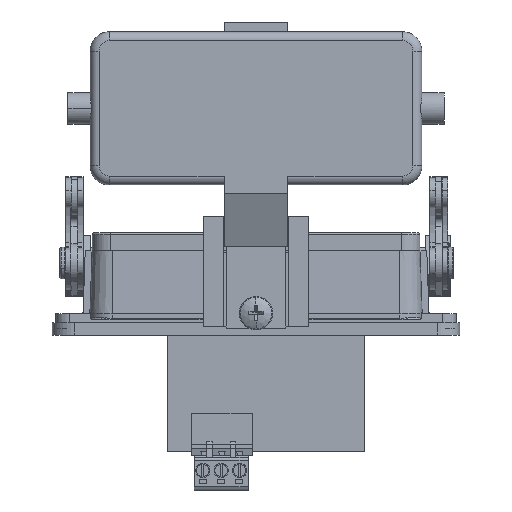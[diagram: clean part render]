
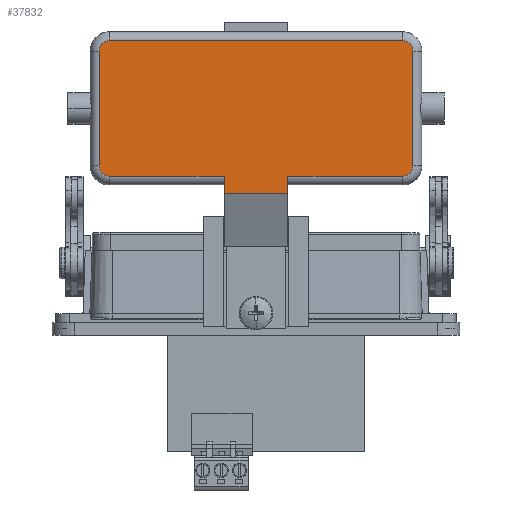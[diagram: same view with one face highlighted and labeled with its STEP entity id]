
A CAD part, front view. The second image highlights one B-rep face of the part: STEP entity #37832.
In plain terms, the highlighted planar face has unit normal (0, -1, 0).
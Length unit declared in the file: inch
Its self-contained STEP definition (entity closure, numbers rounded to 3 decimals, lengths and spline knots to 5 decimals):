
#6994 = VERTEX_POINT ( 'NONE', #22805 ) ;
#7810 = EDGE_CURVE ( 'NONE', #7850, #7822, #21248, .T. ) ;
#7822 = VERTEX_POINT ( 'NONE', #21294 ) ;
#7842 = VERTEX_POINT ( 'NONE', #21372 ) ;
#7844 = EDGE_CURVE ( 'NONE', #6994, #7842, #21370, .T. ) ;
#7850 = VERTEX_POINT ( 'NONE', #21867 ) ;
#21245 = DIRECTION ( 'NONE',  ( 1., 0., 0. ) ) ;
#21246 = VECTOR ( 'NONE', #21245, 39.37008 ) ;
#21247 = CARTESIAN_POINT ( 'NONE',  ( 0.0433, -1.17042, 1.01812 ) ) ;
#21248 = LINE ( 'NONE', #21247, #21246 ) ;
#21294 = CARTESIAN_POINT ( 'NONE',  ( 0.0433, -1.17042, 1.01812 ) ) ;
#21367 = DIRECTION ( 'NONE',  ( 1., 0., 0. ) ) ;
#21368 = VECTOR ( 'NONE', #21367, 39.37008 ) ;
#21369 = CARTESIAN_POINT ( 'NONE',  ( 2.0343, -1.17042, 1.01812 ) ) ;
#21370 = LINE ( 'NONE', #21369, #21368 ) ;
#21372 = CARTESIAN_POINT ( 'NONE',  ( 2.0343, -1.17042, 1.01812 ) ) ;
#21867 = CARTESIAN_POINT ( 'NONE',  ( -1.2377, -1.17042, 1.01812 ) ) ;
#22805 = CARTESIAN_POINT ( 'NONE',  ( 0.7533, -1.17042, 1.01812 ) ) ;
#36072 = EDGE_CURVE ( 'NONE', #36181, #7850, #37376, .T. ) ;
#36103 = VERTEX_POINT ( 'NONE', #37562 ) ;
#36140 = EDGE_CURVE ( 'NONE', #36141, #36238, #37882, .T. ) ;
#36141 = VERTEX_POINT ( 'NONE', #37872 ) ;
#36149 = VERTEX_POINT ( 'NONE', #38072 ) ;
#36151 = EDGE_CURVE ( 'NONE', #36238, #36149, #38067, .T. ) ;
#36181 = VERTEX_POINT ( 'NONE', #38317 ) ;
#36183 = EDGE_CURVE ( 'NONE', #36251, #36181, #38312, .T. ) ;
#36238 = VERTEX_POINT ( 'NONE', #38734 ) ;
#36251 = VERTEX_POINT ( 'NONE', #38898 ) ;
#36253 = EDGE_CURVE ( 'NONE', #36149, #36251, #38894, .T. ) ;
#36290 = EDGE_CURVE ( 'NONE', #6994, #36103, #39053, .T. ) ;
#37369 = DIRECTION ( 'NONE',  ( -1., 0., 0. ) ) ;
#37370 = DIRECTION ( 'NONE',  ( 0., -1., 0. ) ) ;
#37372 = CARTESIAN_POINT ( 'NONE',  ( -1.2377, -1.17042, 1.13274 ) ) ;
#37374 = AXIS2_PLACEMENT_3D ( 'NONE', #37372, #37370, #37369 ) ;
#37376 = CIRCLE ( 'NONE', #37374, 0.11462 ) ;
#37520 = ORIENTED_EDGE ( 'NONE', *, *, #7810, .T. ) ;
#37558 = EDGE_CURVE ( 'NONE', #37928, #36103, #39843, .T. ) ;
#37562 = CARTESIAN_POINT ( 'NONE',  ( 0.7533, -1.17042, 0.82843 ) ) ;
#37589 = EDGE_CURVE ( 'NONE', #37928, #7822, #40013, .T. ) ;
#37832 = ADVANCED_FACE ( 'NONE', ( #41483 ), #41524, .F. ) ;
#37835 = EDGE_LOOP ( 'NONE', ( #37837, #37839, #37841, #37842, #37843, #37847, #37850, #37851, #37852, #37853, #37854, #37520 ) ) ;
#37837 = ORIENTED_EDGE ( 'NONE', *, *, #37589, .F. ) ;
#37839 = ORIENTED_EDGE ( 'NONE', *, *, #37558, .T. ) ;
#37841 = ORIENTED_EDGE ( 'NONE', *, *, #36290, .F. ) ;
#37842 = ORIENTED_EDGE ( 'NONE', *, *, #7844, .T. ) ;
#37843 = ORIENTED_EDGE ( 'NONE', *, *, #37844, .T. ) ;
#37844 = EDGE_CURVE ( 'NONE', #7842, #37846, #41519, .T. ) ;
#37846 = VERTEX_POINT ( 'NONE', #41514 ) ;
#37847 = ORIENTED_EDGE ( 'NONE', *, *, #37848, .T. ) ;
#37848 = EDGE_CURVE ( 'NONE', #37846, #36141, #41512, .T. ) ;
#37850 = ORIENTED_EDGE ( 'NONE', *, *, #36140, .T. ) ;
#37851 = ORIENTED_EDGE ( 'NONE', *, *, #36151, .T. ) ;
#37852 = ORIENTED_EDGE ( 'NONE', *, *, #36253, .T. ) ;
#37853 = ORIENTED_EDGE ( 'NONE', *, *, #36183, .T. ) ;
#37854 = ORIENTED_EDGE ( 'NONE', *, *, #36072, .T. ) ;
#37872 = CARTESIAN_POINT ( 'NONE',  ( 2.14892, -1.17042, 2.41274 ) ) ;
#37875 = DIRECTION ( 'NONE',  ( -1., 0., 0. ) ) ;
#37877 = DIRECTION ( 'NONE',  ( 0., -1., 0. ) ) ;
#37878 = CARTESIAN_POINT ( 'NONE',  ( 2.0343, -1.17042, 2.41274 ) ) ;
#37880 = AXIS2_PLACEMENT_3D ( 'NONE', #37878, #37877, #37875 ) ;
#37882 = CIRCLE ( 'NONE', #37880, 0.11462 ) ;
#37928 = VERTEX_POINT ( 'NONE', #41654 ) ;
#38062 = DIRECTION ( 'NONE',  ( -1., 0., 0. ) ) ;
#38064 = VECTOR ( 'NONE', #38062, 39.37008 ) ;
#38065 = CARTESIAN_POINT ( 'NONE',  ( 0.3983, -1.17042, 2.52736 ) ) ;
#38067 = LINE ( 'NONE', #38065, #38064 ) ;
#38072 = CARTESIAN_POINT ( 'NONE',  ( -1.2377, -1.17042, 2.52736 ) ) ;
#38308 = DIRECTION ( 'NONE',  ( 0., 0., -1. ) ) ;
#38309 = VECTOR ( 'NONE', #38308, 39.37008 ) ;
#38311 = CARTESIAN_POINT ( 'NONE',  ( -1.35232, -1.17042, -2.01012 ) ) ;
#38312 = LINE ( 'NONE', #38311, #38309 ) ;
#38317 = CARTESIAN_POINT ( 'NONE',  ( -1.35232, -1.17042, 1.13274 ) ) ;
#38734 = CARTESIAN_POINT ( 'NONE',  ( 2.0343, -1.17042, 2.52736 ) ) ;
#38887 = DIRECTION ( 'NONE',  ( -1., 0., 0. ) ) ;
#38889 = DIRECTION ( 'NONE',  ( 0., -1., 0. ) ) ;
#38891 = CARTESIAN_POINT ( 'NONE',  ( -1.2377, -1.17042, 2.41274 ) ) ;
#38893 = AXIS2_PLACEMENT_3D ( 'NONE', #38891, #38889, #38887 ) ;
#38894 = CIRCLE ( 'NONE', #38893, 0.11462 ) ;
#38898 = CARTESIAN_POINT ( 'NONE',  ( -1.35232, -1.17042, 2.41274 ) ) ;
#39049 = DIRECTION ( 'NONE',  ( 0., 0., -1. ) ) ;
#39050 = VECTOR ( 'NONE', #39049, 39.37008 ) ;
#39051 = CARTESIAN_POINT ( 'NONE',  ( 0.7533, -1.17042, 0.92474 ) ) ;
#39053 = LINE ( 'NONE', #39051, #39050 ) ;
#39842 = CARTESIAN_POINT ( 'NONE',  ( 0.3983, -1.17042, 0.82843 ) ) ;
#39843 = LINE ( 'NONE', #39842, #39931 ) ;
#39929 = DIRECTION ( 'NONE',  ( 1., 0., 0. ) ) ;
#39931 = VECTOR ( 'NONE', #39929, 39.37008 ) ;
#40008 = DIRECTION ( 'NONE',  ( 0., 0., 1. ) ) ;
#40009 = VECTOR ( 'NONE', #40008, 39.37008 ) ;
#40011 = CARTESIAN_POINT ( 'NONE',  ( 0.0433, -1.17042, 0.55274 ) ) ;
#40013 = LINE ( 'NONE', #40011, #40009 ) ;
#41483 = FACE_OUTER_BOUND ( 'NONE', #37835, .T. ) ;
#41509 = DIRECTION ( 'NONE',  ( 0., 0., 1. ) ) ;
#41510 = VECTOR ( 'NONE', #41509, 39.37008 ) ;
#41511 = CARTESIAN_POINT ( 'NONE',  ( 2.14892, -1.17042, 2.41274 ) ) ;
#41512 = LINE ( 'NONE', #41511, #41510 ) ;
#41514 = CARTESIAN_POINT ( 'NONE',  ( 2.14892, -1.17042, 1.13274 ) ) ;
#41515 = DIRECTION ( 'NONE',  ( -1., 0., 0. ) ) ;
#41516 = DIRECTION ( 'NONE',  ( 0., -1., 0. ) ) ;
#41517 = CARTESIAN_POINT ( 'NONE',  ( 2.0343, -1.17042, 1.13274 ) ) ;
#41518 = AXIS2_PLACEMENT_3D ( 'NONE', #41517, #41516, #41515 ) ;
#41519 = CIRCLE ( 'NONE', #41518, 0.11462 ) ;
#41520 = DIRECTION ( 'NONE',  ( -1., 0., 0. ) ) ;
#41521 = DIRECTION ( 'NONE',  ( 0., 1., 0. ) ) ;
#41522 = CARTESIAN_POINT ( 'NONE',  ( 0.3983, -1.17042, -2.01012 ) ) ;
#41523 = AXIS2_PLACEMENT_3D ( 'NONE', #41522, #41521, #41520 ) ;
#41524 = PLANE ( 'NONE',  #41523 ) ;
#41654 = CARTESIAN_POINT ( 'NONE',  ( 0.0433, -1.17042, 0.82843 ) ) ;
